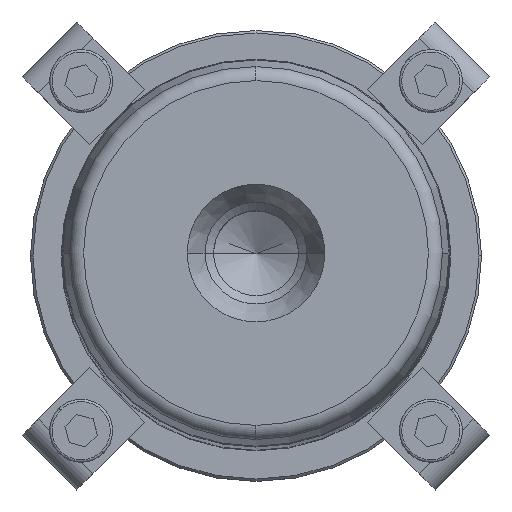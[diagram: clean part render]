
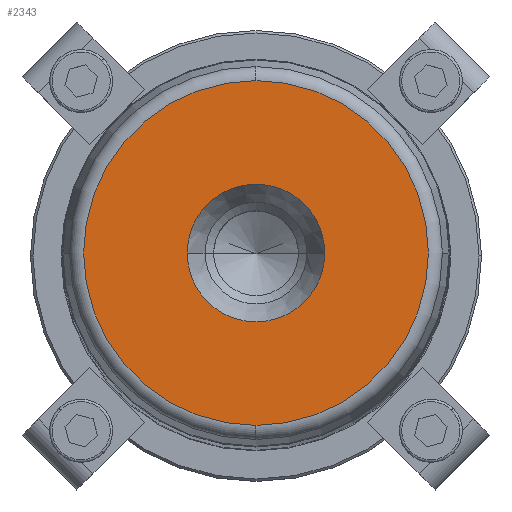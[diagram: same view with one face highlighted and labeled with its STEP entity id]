
A CAD part, top view. The second image highlights one B-rep face of the part: STEP entity #2343.
In plain terms, the highlighted planar face has unit normal (0, 0, 1).
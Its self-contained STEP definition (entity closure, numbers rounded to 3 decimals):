
#431=CARTESIAN_POINT('',(14.2,0.,355.0));
#432=VERTEX_POINT('',#431);
#439=CARTESIAN_POINT('',(-14.2,0.,355.0));
#440=VERTEX_POINT('',#439);
#441=CARTESIAN_POINT('',(0.0,0.,355.0));
#442=DIRECTION('',(0.0,0.0,1.0));
#443=DIRECTION('',(1.0,0.0,0.0));
#444=AXIS2_PLACEMENT_3D('',#441,#442,#443);
#445=CIRCLE('',#444,14.2);
#446=EDGE_CURVE('',#432,#440,#445,.T.);
#463=CARTESIAN_POINT('',(0.0,-35.554,355.));
#464=VERTEX_POINT('',#463);
#474=CARTESIAN_POINT('',(0.,35.554,355.));
#475=VERTEX_POINT('',#474);
#476=CARTESIAN_POINT('',(0.0,0.,355.));
#477=DIRECTION('',(0.0,0.0,1.0));
#478=DIRECTION('',(1.0,0.0,0.0));
#479=AXIS2_PLACEMENT_3D('',#476,#477,#478);
#480=CIRCLE('',#479,35.554);
#481=EDGE_CURVE('',#475,#464,#480,.T.);
#2304=CARTESIAN_POINT('',(35.554,0.,355.));
#2305=VERTEX_POINT('',#2304);
#2306=CARTESIAN_POINT('',(0.0,0.,355.));
#2307=DIRECTION('',(0.0,0.0,1.0));
#2308=DIRECTION('',(1.0,0.0,0.0));
#2309=AXIS2_PLACEMENT_3D('',#2306,#2307,#2308);
#2310=CIRCLE('',#2309,35.554);
#2311=EDGE_CURVE('',#2305,#475,#2310,.T.);
#2313=CARTESIAN_POINT('',(0.0,0.,355.));
#2314=DIRECTION('',(0.0,0.0,1.0));
#2315=DIRECTION('',(1.0,0.0,0.0));
#2316=AXIS2_PLACEMENT_3D('',#2313,#2314,#2315);
#2317=CIRCLE('',#2316,35.554);
#2318=EDGE_CURVE('',#464,#2305,#2317,.T.);
#2323=CARTESIAN_POINT('',(24.877,0.,355.0));
#2324=DIRECTION('',(0.0,0.0,1.0));
#2325=DIRECTION('',(0.0,-1.0,0.0));
#2326=AXIS2_PLACEMENT_3D('',#2323,#2324,#2325);
#2327=PLANE('',#2326);
#2328=ORIENTED_EDGE('',*,*,#2311,.T.);
#2329=ORIENTED_EDGE('',*,*,#481,.T.);
#2330=ORIENTED_EDGE('',*,*,#2318,.T.);
#2331=EDGE_LOOP('',(#2328,#2329,#2330));
#2332=FACE_OUTER_BOUND('',#2331,.T.);
#2333=ORIENTED_EDGE('',*,*,#446,.F.);
#2334=CARTESIAN_POINT('',(0.0,0.,355.0));
#2335=DIRECTION('',(0.0,0.0,1.0));
#2336=DIRECTION('',(1.0,0.0,0.0));
#2337=AXIS2_PLACEMENT_3D('',#2334,#2335,#2336);
#2338=CIRCLE('',#2337,14.2);
#2339=EDGE_CURVE('',#440,#432,#2338,.T.);
#2340=ORIENTED_EDGE('',*,*,#2339,.F.);
#2341=EDGE_LOOP('',(#2333,#2340));
#2342=FACE_BOUND('',#2341,.T.);
#2343=ADVANCED_FACE('',(#2332,#2342),#2327,.T.);
